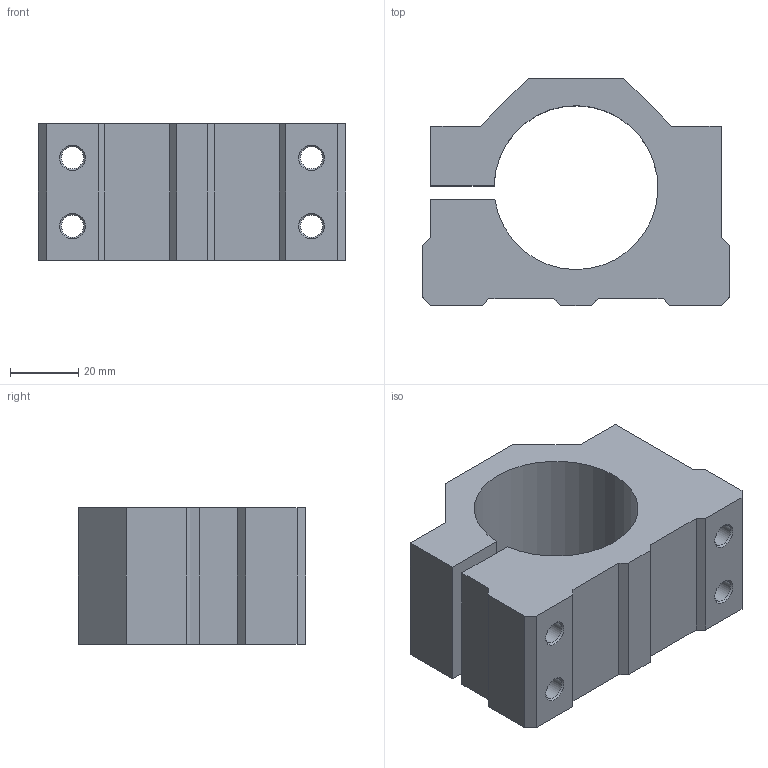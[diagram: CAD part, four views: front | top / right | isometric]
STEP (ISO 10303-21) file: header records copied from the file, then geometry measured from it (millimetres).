
FILE_DESCRIPTION(('STEP AP214'), '1');
FILE_NAME('Êðåïëåíèå äëÿ øïèíäåëÿ _ Ñåðèÿ DJZ48', '', ('UNSPECIFIED'), ('UNSPECIFIED'), 'ASCON STEP Converter 1.3', 'ASCON Math Kernel', '');
FILE_SCHEMA(('AUTOMOTIVE_DESIGN { 1 0 10303 214 3 1 1}'));
Length unit declared in the file: millimetre
Products named in the file (1): Ñåðèÿ DJZ48
Bounding box: 90 x 66.5 x 40 mm (x, y, z)
Volume: 120081.3 mm3; surface area: 28985.7 mm2
Topology: 1 solids, 1 shells, 42 faces, 112 edges, 72 vertices
Faces by surface type: plane 27, cone 8, cylinder 7
Full cylindrical faces by diameter (mm): 6.5 x6
Entity records: 1623 total; most frequent: CARTESIAN_POINT 213, DIRECTION 206, ORIENTED_EDGE 196, EDGE_CURVE 98, LINE 76, VECTOR 76, VERTEX_POINT 72, EDGE_LOOP 68
